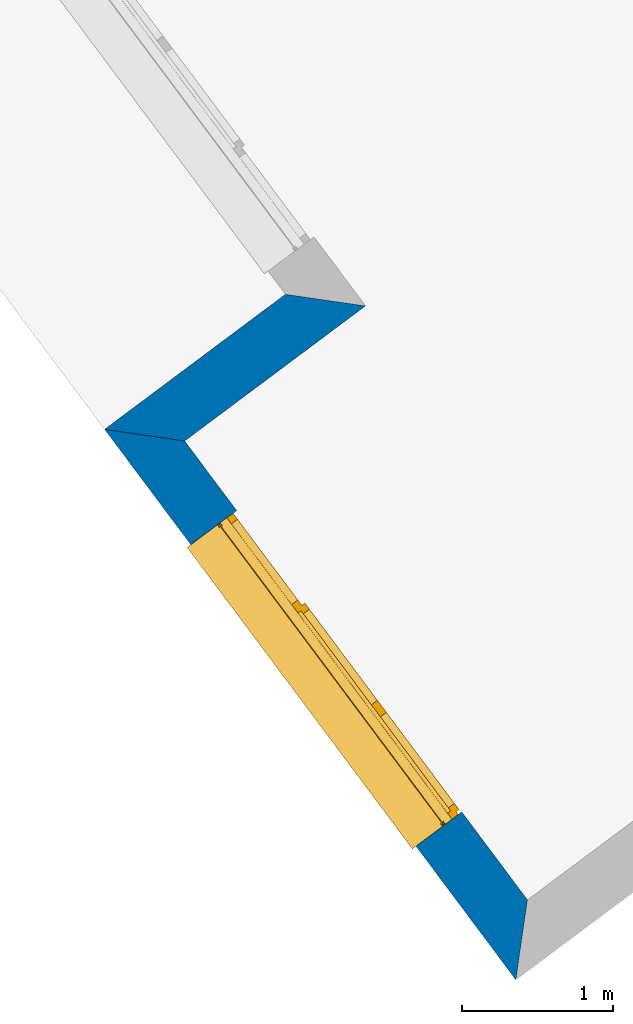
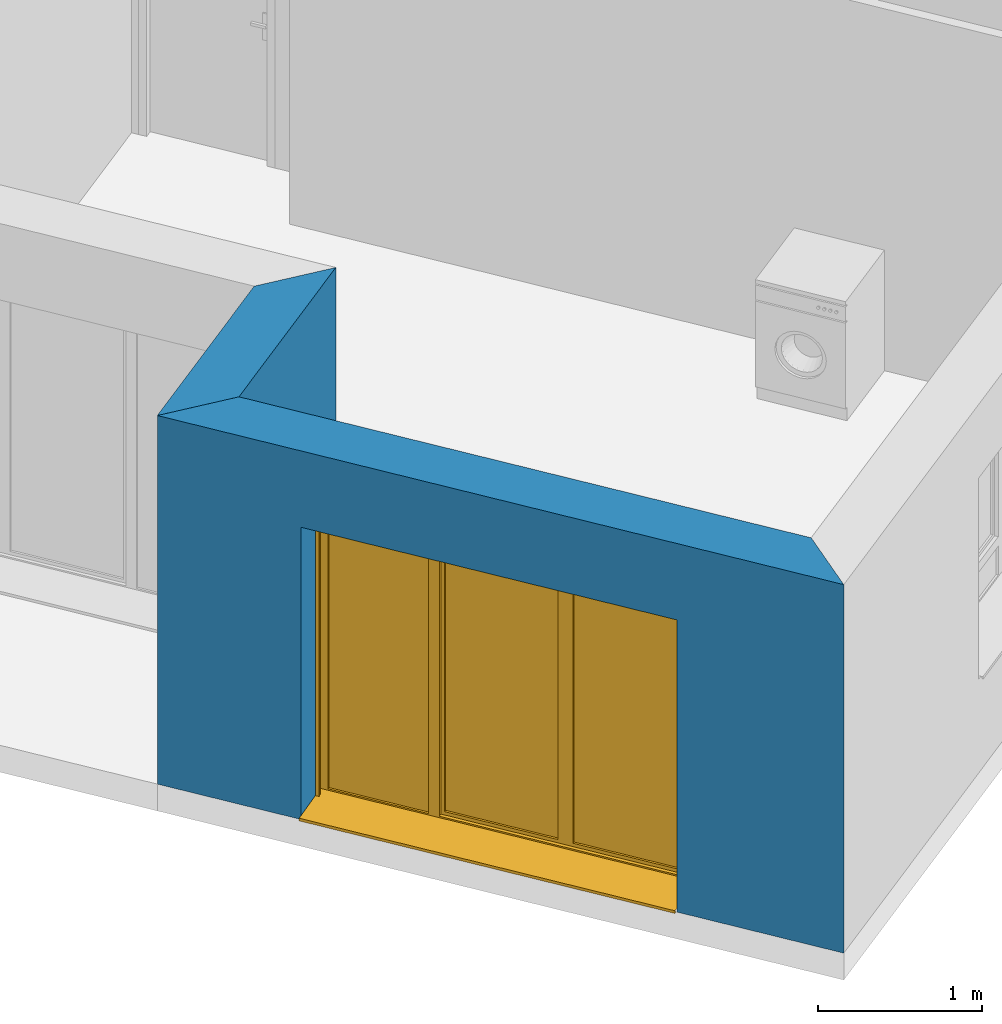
# One storey, part 4 of 195: 2 walls, 1 window, 1 opening.
"""IFC2X3 building model written with IfcOpenShell, lengths in metres."""

from ifc_helpers import new_model, entity, si_unit, converted_unit, derived_unit, money_unit, direction, frame, origin_with_axes, place, context, subcontext, project, spatial, polyline, outline, extrude, open_shell, faceted_brep, surface_model, source, transform, mapped, material, layer, layer_set, layer_usage, type_object, element, fill, save


model = new_model("IFC2X3")

# Units and contexts
model_context = context("Model", 3, precision=1e-05, world=origin_with_axes(), true_north=direction((0.0, 1.0)))
body_context = subcontext(model_context, "Body", "Model", "MODEL_VIEW")
ifc_project = project(units=[si_unit("LENGTHUNIT", "METRE"), si_unit("AREAUNIT", "SQUARE_METRE"), si_unit("VOLUMEUNIT", "CUBIC_METRE"), converted_unit("PLANEANGLEUNIT", "DEGREE", entity("IfcPlaneAngleMeasure", 0.0174532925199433), si_unit("PLANEANGLEUNIT", "RADIAN"), dimensions=[0, 0, 0, 0, 0, 0, 0]), money_unit("CHF"), converted_unit("TIMEUNIT", "Year", entity("IfcTimeMeasure", 31557600.0), si_unit("TIMEUNIT", "SECOND"), dimensions=[0, 0, 1, 0, 0, 0, 0]), si_unit("MASSUNIT", "GRAM", prefix="KILO"), si_unit("THERMODYNAMICTEMPERATUREUNIT", "DEGREE_CELSIUS"), si_unit("LUMINOUSINTENSITYUNIT", "LUMEN"), si_unit("ENERGYUNIT", "JOULE", prefix="MEGA"), derived_unit("THERMALCONDUCTANCEUNIT", [(si_unit("POWERUNIT", "WATT"), 1), (si_unit("LENGTHUNIT", "METRE"), -1), (si_unit("THERMODYNAMICTEMPERATUREUNIT", "KELVIN"), -1)]), derived_unit("SPECIFICHEATCAPACITYUNIT", [(si_unit("ENERGYUNIT", "JOULE"), 1), (si_unit("MASSUNIT", "GRAM", prefix="KILO"), -1), (si_unit("THERMODYNAMICTEMPERATUREUNIT", "KELVIN"), -1)]), derived_unit("MASSDENSITYUNIT", [(si_unit("MASSUNIT", "GRAM", prefix="KILO"), 1), (si_unit("VOLUMEUNIT", "CUBIC_METRE"), -1)])], contexts=[model_context])

# Site, building, storey
site_placement = place(None, origin_with_axes())
site = spatial("IfcSite", under=ifc_project, at=site_placement, Name="Site", CompositionType="ELEMENT")
building_placement = place(site_placement, origin_with_axes())
building = spatial("IfcBuilding", under=site, at=building_placement, Name="Bâtiment", CompositionType="ELEMENT")
storey_placement = place(building_placement, origin_with_axes())
storey = spatial("IfcBuildingStorey", under=building, at=storey_placement, Name="rdc", CompositionType="ELEMENT", Elevation=0.0)

# Wall
ifc_material_1 = material(Name="Parpaing 312445824")
ifc_layer_1 = layer(ifc_material_1, 0.22, ventilated="UNKNOWN")
ifc_material_2 = material(Name="Isolant styromousse 301821074")
ifc_layer_2 = layer(ifc_material_2, 0.16, ventilated="UNKNOWN")
ifc_layer_set = layer_set([ifc_layer_1, ifc_layer_2], Name="isol int 22+16 0836643197")
ifc_layer_usage_1 = layer_usage(ifc_layer_set, "AXIS2", "POSITIVE", 0.0)
wall_type = type_object("IfcWallType", Name="isol int 22+16 0836643197 380", PredefinedType="NOTDEFINED")
wall_1_placement = place(storey_placement, frame((9534.109149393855, -1084.476168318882, 57.7), z_axis=(0.0, 0.0, 1.0), x_axis=(-0.8011628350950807, -0.5984464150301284, 0.0)))
element("IfcWallStandardCase", 1, at=wall_1_placement, inside=storey, type_object=wall_type, material=ifc_layer_usage_1, Name="Mur-115", context=body_context, shape_type="SweptSolid", body=[
    extrude(outline(polyline([(0.0, 0.0), (1.500000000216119, 0.0), (1.12000000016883, 0.3799999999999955), (-0.3800000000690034, 0.3800000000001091), (0.0, 0.0)])), origin_with_axes(), (0.0, 0.0, 1.0), 2.75),
])

# Wall, opening, window
ifc_layer_usage_2 = layer_usage(ifc_layer_set, "AXIS2", "POSITIVE", 0.0)
wall_2_placement = place(storey_placement, frame((9532.907405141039, -1085.373837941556, 57.7), z_axis=(0.0, 0.0, 1.0), x_axis=(0.5984464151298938, -0.8011628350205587, 0.0)))
wall_2 = element("IfcWallStandardCase", 2, at=wall_2_placement, inside=storey, type_object=wall_type, material=ifc_layer_usage_2, Name="Mur-115", context=body_context, shape_type="SweptSolid", body=[
    extrude(outline(polyline([(0.0, 0.0), (4.566222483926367, 0.0), (4.186222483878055, 0.3799999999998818), (0.3800000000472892, 0.3799999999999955), (0.0, 0.0)])), origin_with_axes(), (0.0, 0.0, 1.0), 2.75),
])
opening_placement = place(wall_2_placement, frame((2.206747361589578, 0.0, 0.0), z_axis=(0.0, 0.0, 1.0), x_axis=(1.0, 0.0, 0.0)))
opening = element("IfcOpeningElement", 3, at=opening_placement, cuts=wall_2, Name="Fen-050", context=body_context, shape_type="Brep", body=[
    faceted_brep([(-1.25, 0.4800000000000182, 2.18), (1.25, 0.4800000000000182, 2.18), (1.25, 2.570289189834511, 2.18), (-1.25, 2.570289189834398, 2.18), (-1.25, 0.4800000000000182, 2.380000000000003), (1.25, 0.4800000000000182, 2.380000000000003), (1.25, 0.2999999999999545, 2.18), (1.25, 0.2999999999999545, 0.0), (1.25, 2.570289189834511, 0.0), (-1.25, 2.570289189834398, 0.0), (-1.25, 0.2999999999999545, 2.18), (-1.25, 0.2999999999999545, 0.0), (-1.25, 0.2200000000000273, 2.18), (-1.25, 0.2200000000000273, 2.380000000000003), (1.25, 0.2200000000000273, 2.380000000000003), (1.25, 0.2200000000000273, 2.18), (1.25, -2.190289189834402, 2.18), (1.25, -2.190289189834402, 0.0), (-1.250000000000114, -2.190289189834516, 0.0), (-1.250000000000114, -2.190289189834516, 2.18)], [[[0, 1, 2, 3]], [[1, 0, 4, 5]], [[1, 6, 7, 8, 2]], [[2, 8, 9, 3]], [[10, 0, 3, 9, 11]], [[0, 10, 12, 13, 4]], [[4, 13, 14, 5]], [[6, 1, 5, 14, 15]], [[6, 15, 16, 17, 7]], [[7, 11, 9, 8]], [[12, 10, 11, 18, 19]], [[12, 15, 14, 13]], [[15, 12, 19, 16]], [[19, 18, 17, 16]], [[11, 7, 17, 18]]]),
])
window_style = type_object("IfcWindowStyle", Name="Fenêtre variable 27", ConstructionType="NOTDEFINED", OperationType="TRIPLE_PANEL_VERTICAL", ParameterTakesPrecedence=False, Sizeable=False)
shared_shape = source(origin_with_axes(), body_context, "Body", "SurfaceModel", [
    surface_model("IfcShellBasedSurfaceModel", [(1.25, -0.05100000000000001, 0.05), (-1.25, -0.05100000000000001, 0.05000000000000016), (-1.25, -0.05100000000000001, 0.04000000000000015), (1.25, -0.05100000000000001, 0.04), (-1.25, -0.3799999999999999, 0.02900000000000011), (1.25, -0.3799999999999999, 0.02899999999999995), (-1.25, -0.3799999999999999, 0.009000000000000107), (1.25, -0.3799999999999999, 0.008999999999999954), (-1.25, -0.3699999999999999, 0.01900000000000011), (1.25, -0.3699999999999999, 0.01899999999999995)], [open_shell([[[0, 1, 2, 3]], [[3, 2, 4, 5]], [[5, 4, 6, 7]], [[7, 6, 8, 9]]])]),
    faceted_brep([(1.25, -0.1300000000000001, 2.38), (1.25, 0.1299999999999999, 2.38), (1.247, 0.1299999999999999, 2.38), (1.247, -0.1300000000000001, 2.38), (1.25, -0.1300000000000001, 2.18), (1.25, 0.1299999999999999, 2.18), (1.247, 0.1299999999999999, 2.18), (1.247, -0.1300000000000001, 2.18)], [[[0, 1, 2, 3]], [[0, 4, 5, 1]], [[1, 5, 6, 2]], [[3, 2, 6, 7]], [[4, 0, 3, 7]], [[5, 4, 7, 6]]]),
    faceted_brep([(-1.247, -0.1299999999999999, 2.38), (-1.247, 0.1300000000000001, 2.38), (-1.25, 0.1300000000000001, 2.38), (-1.25, -0.1299999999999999, 2.38), (-1.247, -0.1299999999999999, 2.18), (-1.247, 0.1300000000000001, 2.18), (-1.25, 0.1300000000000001, 2.18), (-1.25, -0.1299999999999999, 2.18)], [[[0, 1, 2, 3]], [[0, 4, 5, 1]], [[1, 5, 6, 2]], [[3, 2, 6, 7]], [[4, 0, 3, 7]], [[5, 4, 7, 6]]]),
    faceted_brep([(1.247, -0.1300000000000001, 2.18), (1.247, -0.1300000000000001, 2.38), (-1.247, -0.1299999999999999, 2.38), (-1.247, -0.1299999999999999, 2.18), (1.247, -0.1270000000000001, 2.18), (1.247, -0.1270000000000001, 2.377), (1.247, 0.1269999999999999, 2.377), (1.247, 0.1269999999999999, 2.183), (1.247, -0.1080000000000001, 2.183), (1.247, -0.1080000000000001, 2.18), (1.247, 0.1299999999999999, 2.18), (1.247, 0.1299999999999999, 2.38), (-1.247, 0.1300000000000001, 2.38), (-1.247, 0.1300000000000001, 2.18), (-1.247, -0.1079999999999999, 2.18), (-1.247, -0.1079999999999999, 2.183), (-1.247, 0.1270000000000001, 2.183), (-1.247, 0.1270000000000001, 2.377), (-1.247, -0.1269999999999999, 2.377), (-1.247, -0.1269999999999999, 2.18)], [[[0, 1, 2, 3]], [[0, 4, 5, 6, 7, 8, 9, 10, 11, 1]], [[1, 11, 12, 2]], [[3, 2, 12, 13, 14, 15, 16, 17, 18, 19]], [[4, 0, 3, 19]], [[5, 4, 19, 18]], [[6, 5, 18, 17]], [[7, 6, 17, 16]], [[8, 7, 16, 15]], [[9, 8, 15, 14]], [[10, 9, 14, 13]], [[11, 10, 13, 12]]]),
    faceted_brep([(1.244, -0.08075423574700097, 2.265760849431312), (1.244, -0.07705479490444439, 2.251954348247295), (1.244, -0.07101408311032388, 2.239), (1.244, -0.06281564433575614, 2.227291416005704), (1.244, -0.05270858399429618, 2.217184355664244), (1.244, -0.04099999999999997, 2.208985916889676), (1.244, -0.02804565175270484, 2.202945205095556), (1.244, -0.01423915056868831, 2.199245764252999), (1.244, 0.0, 2.198), (1.244, 0.01423915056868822, 2.199245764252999), (1.244, 0.02804565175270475, 2.202945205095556), (1.244, 0.0409999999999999, 2.208985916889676), (1.244, 0.05270858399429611, 2.217184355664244), (1.244, 0.06281564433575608, 2.227291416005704), (1.244, 0.07101408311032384, 2.239), (1.244, 0.07705479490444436, 2.251954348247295), (1.244, 0.08075423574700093, 2.265760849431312), (1.244, 0.08199999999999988, 2.28), (1.244, 0.08075423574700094, 2.294239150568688), (1.244, 0.07705479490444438, 2.308045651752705), (1.244, 0.07101408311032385, 2.321), (1.244, 0.0628156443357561, 2.332708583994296), (1.244, 0.05270858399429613, 2.342815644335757), (1.244, 0.04099999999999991, 2.351014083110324), (1.244, 0.02804565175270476, 2.357054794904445), (1.244, 0.01423915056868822, 2.360754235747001), (1.244, 0.0, 2.362), (1.244, -0.01423915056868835, 2.360754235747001), (1.244, -0.0280456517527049, 2.357054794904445), (1.244, -0.04100000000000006, 2.351014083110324), (1.244, -0.05270858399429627, 2.342815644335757), (1.244, -0.06281564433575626, 2.332708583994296), (1.244, -0.07101408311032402, 2.321), (1.244, -0.07705479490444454, 2.308045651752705), (1.244, -0.08075423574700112, 2.294239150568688), (1.244, -0.08200000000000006, 2.28), (-1.244, -0.08075423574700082, 2.265760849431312), (-1.244, -0.07705479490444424, 2.251954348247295), (-1.244, -0.07101408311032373, 2.239), (-1.244, -0.06281564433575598, 2.227291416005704), (-1.244, -0.05270858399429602, 2.217184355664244), (-1.244, -0.04099999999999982, 2.208985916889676), (-1.244, -0.02804565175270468, 2.202945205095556), (-1.244, -0.01423915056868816, 2.199245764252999), (-1.244, 0.0, 2.198), (-1.244, 0.01423915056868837, 2.199245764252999), (-1.244, 0.02804565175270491, 2.202945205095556), (-1.244, 0.04100000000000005, 2.208985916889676), (-1.244, 0.05270858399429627, 2.217184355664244), (-1.244, 0.06281564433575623, 2.227291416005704), (-1.244, 0.07101408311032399, 2.239), (-1.244, 0.07705479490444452, 2.251954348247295), (-1.244, 0.08075423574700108, 2.265760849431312), (-1.244, 0.08200000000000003, 2.28), (-1.244, 0.0807542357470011, 2.294239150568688), (-1.244, 0.07705479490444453, 2.308045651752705), (-1.244, 0.071014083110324, 2.321), (-1.244, 0.06281564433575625, 2.332708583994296), (-1.244, 0.05270858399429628, 2.342815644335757), (-1.244, 0.04100000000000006, 2.351014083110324), (-1.244, 0.02804565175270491, 2.357054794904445), (-1.244, 0.01423915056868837, 2.360754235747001), (-1.244, 0.0, 2.362), (-1.244, -0.0142391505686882, 2.360754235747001), (-1.244, -0.02804565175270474, 2.357054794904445), (-1.244, -0.0409999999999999, 2.351014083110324), (-1.244, -0.05270858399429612, 2.342815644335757), (-1.244, -0.06281564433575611, 2.332708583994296), (-1.244, -0.07101408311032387, 2.321), (-1.244, -0.07705479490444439, 2.308045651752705), (-1.244, -0.08075423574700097, 2.294239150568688), (-1.244, -0.0819999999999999, 2.28)], [[[0, 1, 2, 3, 4, 5, 6, 7, 8, 9, 10, 11, 12, 13, 14, 15, 16, 17, 18, 19, 20, 21, 22, 23, 24, 25, 26, 27, 28, 29, 30, 31, 32, 33, 34, 35]], [[1, 0, 36, 37]], [[2, 1, 37, 38]], [[3, 2, 38, 39]], [[4, 3, 39, 40]], [[5, 4, 40, 41]], [[6, 5, 41, 42]], [[7, 6, 42, 43]], [[8, 7, 43, 44]], [[9, 8, 44, 45]], [[10, 9, 45, 46]], [[11, 10, 46, 47]], [[12, 11, 47, 48]], [[13, 12, 48, 49]], [[14, 13, 49, 50]], [[15, 14, 50, 51]], [[16, 15, 51, 52]], [[17, 16, 52, 53]], [[18, 17, 53, 54]], [[19, 18, 54, 55]], [[20, 19, 55, 56]], [[21, 20, 56, 57]], [[22, 21, 57, 58]], [[23, 22, 58, 59]], [[24, 23, 59, 60]], [[25, 24, 60, 61]], [[26, 25, 61, 62]], [[27, 26, 62, 63]], [[28, 27, 63, 64]], [[29, 28, 64, 65]], [[30, 29, 65, 66]], [[31, 30, 66, 67]], [[32, 31, 67, 68]], [[33, 32, 68, 69]], [[34, 33, 69, 70]], [[35, 34, 70, 71]], [[0, 35, 71, 36]], [[36, 71, 70, 69, 68, 67, 66, 65, 64, 63, 62, 61, 60, 59, 58, 57, 56, 55, 54, 53, 52, 51, 50, 49, 48, 47, 46, 45, 44, 43, 42, 41, 40, 39, 38, 37]]]),
    faceted_brep([(-1.25, -0.105, 0.03), (-1.25, -0.13, 0.03), (-1.25, -0.1299999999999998, 2.18), (-1.25, -0.1049999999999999, 2.18), (-1.225, -0.105, 0.03), (-1.225, -0.108, 0.03), (-1.247, -0.108, 0.03), (-1.247, -0.127, 0.03), (-1.225, -0.127, 0.03), (-1.225, -0.13, 0.03), (-1.225, -0.1299999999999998, 2.18), (-1.225, -0.1269999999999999, 2.18), (-1.247, -0.1269999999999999, 2.18), (-1.247, -0.1079999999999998, 2.18), (-1.225, -0.1079999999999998, 2.18), (-1.225, -0.1049999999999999, 2.18)], [[[0, 1, 2, 3]], [[0, 4, 5, 6, 7, 8, 9, 1]], [[1, 9, 10, 2]], [[3, 2, 10, 11, 12, 13, 14, 15]], [[4, 0, 3, 15]], [[5, 4, 15, 14]], [[6, 5, 14, 13]], [[7, 6, 13, 12]], [[8, 7, 12, 11]], [[9, 8, 11, 10]]]),
    faceted_brep([(1.25, -0.105, 0.03), (1.25, -0.1049999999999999, 2.18), (1.25, -0.1299999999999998, 2.18), (1.25, -0.13, 0.03), (1.225, -0.105, 0.03), (1.225, -0.1049999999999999, 2.18), (1.225, -0.1079999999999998, 2.18), (1.247, -0.1079999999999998, 2.18), (1.247, -0.1269999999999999, 2.18), (1.225, -0.1269999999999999, 2.18), (1.225, -0.1299999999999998, 2.18), (1.225, -0.13, 0.03), (1.225, -0.127, 0.03), (1.247, -0.127, 0.03), (1.247, -0.108, 0.03), (1.225, -0.108, 0.03)], [[[0, 1, 2, 3]], [[4, 5, 1, 0]], [[1, 5, 6, 7, 8, 9, 10, 2]], [[3, 2, 10, 11]], [[0, 3, 11, 12, 13, 14, 15, 4]], [[15, 6, 5, 4]], [[14, 7, 6, 15]], [[13, 8, 7, 14]], [[12, 9, 8, 13]], [[11, 10, 9, 12]]]),
    surface_model("IfcShellBasedSurfaceModel", [(1.247, -0.115, 2.28), (-1.247, -0.1149999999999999, 2.28), (-1.247, -0.1199999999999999, 2.28), (1.247, -0.1200000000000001, 2.28), (1.247, -0.115, 2.28), (1.247, -0.1200000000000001, 2.28), (-1.247, -0.1199999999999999, 2.28), (-1.247, -0.1149999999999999, 2.28)], [open_shell([[[0, 1, 2, 3]], [[4, 5, 6, 7]]])]),
    faceted_brep([(1.247, -0.115, 2.28), (1.247, -0.1166666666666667, 2.263333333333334), (-1.247, -0.1166666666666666, 2.263333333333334), (-1.247, -0.1149999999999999, 2.28), (1.247, -0.1200000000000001, 2.28), (1.247, -0.1216666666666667, 2.263333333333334), (1.247, -0.1216666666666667, 2.246666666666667), (1.247, -0.1200000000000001, 2.23), (1.247, -0.115, 2.23), (1.247, -0.1166666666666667, 2.246666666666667), (-1.247, -0.1166666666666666, 2.246666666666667), (-1.247, -0.1149999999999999, 2.23), (-1.247, -0.1199999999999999, 2.23), (-1.247, -0.1216666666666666, 2.246666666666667), (-1.247, -0.1216666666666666, 2.263333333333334), (-1.247, -0.1199999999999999, 2.28)], [[[0, 1, 2, 3]], [[0, 4, 5, 6, 7, 8, 9, 1]], [[1, 9, 10, 2]], [[3, 2, 10, 11, 12, 13, 14, 15]], [[4, 0, 3, 15]], [[5, 4, 15, 14]], [[6, 5, 14, 13]], [[7, 6, 13, 12]], [[8, 7, 12, 11]], [[9, 8, 11, 10]]]),
    faceted_brep([(1.247, -0.115, 2.23), (1.247, -0.1166666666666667, 2.213333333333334), (-1.247, -0.1166666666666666, 2.213333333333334), (-1.247, -0.1149999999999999, 2.23), (1.247, -0.1200000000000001, 2.23), (1.247, -0.1216666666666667, 2.213333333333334), (1.247, -0.1216666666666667, 2.196666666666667), (1.247, -0.1200000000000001, 2.180000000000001), (1.247, -0.115, 2.180000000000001), (1.247, -0.1166666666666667, 2.196666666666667), (-1.247, -0.1166666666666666, 2.196666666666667), (-1.247, -0.1149999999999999, 2.180000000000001), (-1.247, -0.1199999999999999, 2.180000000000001), (-1.247, -0.1216666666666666, 2.196666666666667), (-1.247, -0.1216666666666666, 2.213333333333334), (-1.247, -0.1199999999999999, 2.23)], [[[0, 1, 2, 3]], [[0, 4, 5, 6, 7, 8, 9, 1]], [[1, 9, 10, 2]], [[3, 2, 10, 11, 12, 13, 14, 15]], [[4, 0, 3, 15]], [[5, 4, 15, 14]], [[6, 5, 14, 13]], [[7, 6, 13, 12]], [[8, 7, 12, 11]], [[9, 8, 11, 10]]]),
    faceted_brep([(1.225, 0.0, 2.13), (1.225, -0.02500000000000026, 2.13), (1.2, -0.02500000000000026, 2.13), (1.2, -0.05000000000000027, 2.13), (1.25, -0.05000000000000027, 2.13), (1.25, 0.0, 2.13), (1.225, 0.0, 0.05000000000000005), (1.225, -0.02500000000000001, 0.05000000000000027), (1.2, -0.02500000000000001, 0.05000000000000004), (1.2, -0.05000000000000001, 0.05000000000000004), (1.25, -0.05000000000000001, 0.05000000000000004), (1.25, 0.0, 0.05000000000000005)], [[[0, 1, 2, 3, 4, 5]], [[1, 0, 6, 7]], [[8, 2, 1, 7]], [[2, 8, 9, 3]], [[4, 3, 9, 10]], [[5, 4, 10, 11]], [[6, 0, 5, 11]], [[7, 6, 11, 10, 9, 8]]]),
    faceted_brep([(-0.4600000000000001, -0.02500000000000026, 2.13), (-0.4850000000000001, -0.02500000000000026, 2.13), (-0.4850000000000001, 0.0, 2.13), (-0.5300000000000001, 0.0, 2.13), (-0.5300000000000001, -0.05000000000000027, 2.13), (-0.4600000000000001, -0.05000000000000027, 2.13), (-0.4600000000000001, -0.02500000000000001, 0.05000000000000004), (-0.4850000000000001, -0.02500000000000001, 0.05000000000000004), (-0.4850000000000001, 0.0, 0.05000000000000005), (-0.5300000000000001, 0.0, 0.05000000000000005), (-0.5300000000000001, -0.05000000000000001, 0.05000000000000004), (-0.4600000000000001, -0.05000000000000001, 0.05000000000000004)], [[[0, 1, 2, 3, 4, 5]], [[1, 0, 6, 7]], [[8, 2, 1, 7]], [[2, 8, 9, 3]], [[9, 10, 4, 3]], [[10, 11, 5, 4]], [[6, 0, 5, 11]], [[7, 6, 11, 10, 9, 8]]]),
    faceted_brep([(-0.4600000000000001, -0.02500000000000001, 0.05000000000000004), (-0.4850000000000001, -0.02500000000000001, 0.05000000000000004), (-0.4850000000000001, 0.0, 0.05000000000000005), (-0.5300000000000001, 0.0, 0.05000000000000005), (-0.5300000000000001, -0.05000000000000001, 0.05000000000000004), (-0.4600000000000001, -0.05000000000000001, 0.05000000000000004), (1.2, -0.02500000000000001, 0.05000000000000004), (1.225, -0.02500000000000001, 0.05000000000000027), (1.225, -0.025, 0.02499999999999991), (-0.4850000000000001, -0.025, 0.02499999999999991), (-0.4850000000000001, 0.0, 0.02499999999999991), (1.225, 0.0, 0.02499999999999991), (1.225, 0.0, 0.05000000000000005), (1.25, 0.0, 0.05000000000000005), (1.25, 0.0, 0.0), (-1.25, 0.0, 0.0), (-1.25, 0.0, 0.05000000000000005), (-1.2, 0.0, 0.05000000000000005), (-1.2, -0.05000000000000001, 0.05000000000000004), (1.25, -0.05000000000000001, 0.05000000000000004), (1.2, -0.05000000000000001, 0.05000000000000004), (-1.25, -0.05000000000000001, 0.05000000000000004), (-1.25, -0.05, 0.0), (1.25, -0.05, 0.0)], [[[0, 1, 2, 3, 4, 5]], [[1, 0, 6, 7, 8, 9]], [[10, 2, 1, 9]], [[11, 12, 13, 14, 15, 16, 17, 3, 2, 10]], [[17, 18, 4, 3]], [[19, 20, 5, 4, 18, 21, 22, 23]], [[6, 0, 5, 20]], [[7, 6, 20, 19, 13, 12]], [[7, 12, 11, 8]], [[11, 10, 9, 8]], [[13, 19, 23, 14]], [[14, 23, 22, 15]], [[15, 22, 21, 16]], [[16, 21, 18, 17]]]),
    faceted_brep([(1.225, 0.0, 2.13), (1.225, 0.0, 2.155), (-0.4850000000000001, 0.0, 2.155), (-0.4850000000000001, 0.0, 2.13), (-0.5300000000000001, 0.0, 2.13), (-1.2, 0.0, 2.13), (-1.25, 0.0, 2.13), (-1.25, 0.0, 2.18), (1.25, 0.0, 2.18), (1.25, 0.0, 2.13), (1.225, -0.02500000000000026, 2.13), (1.225, -0.02500000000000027, 2.155), (-0.4850000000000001, -0.02500000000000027, 2.155), (-0.4850000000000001, -0.02500000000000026, 2.13), (-0.4600000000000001, -0.02500000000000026, 2.13), (-0.4600000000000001, -0.05000000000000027, 2.13), (-0.5300000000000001, -0.05000000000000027, 2.13), (-1.2, -0.05000000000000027, 2.13), (-1.25, -0.05000000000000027, 2.13), (-1.25, -0.05000000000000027, 2.18), (1.25, -0.05000000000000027, 2.18), (1.25, -0.05000000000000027, 2.13), (1.2, -0.05000000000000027, 2.13), (1.2, -0.02500000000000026, 2.13)], [[[0, 1, 2, 3, 4, 5, 6, 7, 8, 9]], [[1, 0, 10, 11]], [[2, 1, 11, 12]], [[3, 2, 12, 13]], [[13, 14, 15, 16, 4, 3]], [[4, 16, 17, 5]], [[5, 17, 18, 6]], [[6, 18, 19, 7]], [[7, 19, 20, 8]], [[8, 20, 21, 9]], [[10, 0, 9, 21, 22, 23]], [[14, 13, 12, 11, 10, 23]], [[14, 23, 22, 15]], [[16, 15, 22, 21, 20, 19, 18, 17]]]),
    faceted_brep([(-1.2, -0.05000000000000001, 0.05), (-1.25, -0.05000000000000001, 0.05), (-1.25, 0.0, 0.05000000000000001), (-1.2, 0.0, 0.05000000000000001), (-1.2, -0.05000000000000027, 2.13), (-1.25, -0.05000000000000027, 2.13), (-1.25, 0.0, 2.13), (-1.2, 0.0, 2.13)], [[[0, 1, 2, 3]], [[0, 4, 5, 1]], [[1, 5, 6, 2]], [[3, 2, 6, 7]], [[4, 0, 3, 7]], [[5, 4, 7, 6]]]),
    faceted_brep([(0.3199999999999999, -0.02500000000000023, 2.105), (0.3699999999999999, -0.02500000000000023, 2.105), (0.3699999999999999, 0.02499999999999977, 2.105), (0.3199999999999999, 0.02499999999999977, 2.105), (0.3199999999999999, -0.02499999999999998, 0.07500000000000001), (0.3699999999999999, -0.02499999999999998, 0.07500000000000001), (0.3699999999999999, 0.02500000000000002, 0.07500000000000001), (0.3199999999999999, 0.02500000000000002, 0.07500000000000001)], [[[0, 1, 2, 3]], [[0, 4, 5, 1]], [[1, 5, 6, 2]], [[3, 2, 6, 7]], [[4, 0, 3, 7]], [[5, 4, 7, 6]]]),
    faceted_brep([(-0.4350000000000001, -0.02500000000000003, 0.07500000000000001), (-0.4850000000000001, -0.02500000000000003, 0.07500000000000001), (-0.4850000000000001, 0.02499999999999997, 0.07500000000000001), (-0.4350000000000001, 0.02499999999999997, 0.07500000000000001), (-0.4350000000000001, -0.02500000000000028, 2.105), (-0.4850000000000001, -0.02500000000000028, 2.105), (-0.4850000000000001, 0.02499999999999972, 2.105), (-0.4350000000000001, 0.02499999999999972, 2.105)], [[[0, 1, 2, 3]], [[0, 4, 5, 1]], [[1, 5, 6, 2]], [[3, 2, 6, 7]], [[4, 0, 3, 7]], [[5, 4, 7, 6]]]),
    faceted_brep([(-0.4850000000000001, -0.02500000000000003, 0.025), (-0.4850000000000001, -0.02500000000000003, 0.07500000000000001), (-0.4850000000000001, 0.02499999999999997, 0.07500000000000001), (-0.4850000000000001, 0.02499999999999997, 0.02500000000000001), (0.3699999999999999, -0.02499999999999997, 0.025), (0.3699999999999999, -0.02499999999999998, 0.07500000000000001), (0.3199999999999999, -0.02499999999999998, 0.07500000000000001), (-0.4350000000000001, -0.02500000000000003, 0.07500000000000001), (-0.4350000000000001, 0.02499999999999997, 0.07500000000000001), (0.3199999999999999, 0.02500000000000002, 0.07500000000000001), (0.3699999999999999, 0.02500000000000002, 0.07500000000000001), (0.3699999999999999, 0.02500000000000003, 0.02500000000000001)], [[[0, 1, 2, 3]], [[0, 4, 5, 6, 7, 1]], [[1, 7, 8, 2]], [[3, 2, 8, 9, 10, 11]], [[4, 0, 3, 11]], [[5, 4, 11, 10]], [[6, 5, 10, 9]], [[7, 6, 9, 8]]]),
    faceted_brep([(0.3699999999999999, -0.02500000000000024, 2.155), (0.3699999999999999, -0.02500000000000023, 2.105), (0.3699999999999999, 0.02499999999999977, 2.105), (0.3699999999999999, 0.02499999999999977, 2.155), (-0.4850000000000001, -0.02500000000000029, 2.155), (-0.4850000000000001, -0.02500000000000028, 2.105), (-0.4350000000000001, -0.02500000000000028, 2.105), (0.3199999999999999, -0.02500000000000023, 2.105), (0.3199999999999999, 0.02499999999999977, 2.105), (-0.4350000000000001, 0.02499999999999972, 2.105), (-0.4850000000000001, 0.02499999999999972, 2.105), (-0.4850000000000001, 0.02499999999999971, 2.155)], [[[0, 1, 2, 3]], [[0, 4, 5, 6, 7, 1]], [[1, 7, 8, 2]], [[3, 2, 8, 9, 10, 11]], [[4, 0, 3, 11]], [[5, 4, 11, 10]], [[6, 5, 10, 9]], [[7, 6, 9, 8]]]),
    surface_model("IfcShellBasedSurfaceModel", [(0.3199999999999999, -0.01000000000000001, 0.07500000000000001), (0.3199999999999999, -0.01000000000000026, 2.105), (-0.4350000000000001, -0.01000000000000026, 2.105), (-0.4350000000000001, -0.01000000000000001, 0.07500000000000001)], [open_shell([[[0, 1, 2, 3]]])]),
    surface_model("IfcShellBasedSurfaceModel", [(0.3199999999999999, 0.009999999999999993, 0.07500000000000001), (-0.4350000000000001, 0.009999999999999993, 0.07500000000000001), (-0.4350000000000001, 0.009999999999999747, 2.105), (0.3199999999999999, 0.009999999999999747, 2.105)], [open_shell([[[0, 1, 2, 3]]])]),
    faceted_brep([(1.175, -0.02500000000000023, 2.105), (1.225, -0.02500000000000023, 2.105), (1.225, 0.02499999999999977, 2.105), (1.175, 0.02499999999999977, 2.105), (1.175, -0.02499999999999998, 0.07500000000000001), (1.225, -0.02499999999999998, 0.07500000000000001), (1.225, 0.02500000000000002, 0.07500000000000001), (1.175, 0.02500000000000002, 0.07500000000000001)], [[[0, 1, 2, 3]], [[0, 4, 5, 1]], [[1, 5, 6, 2]], [[3, 2, 6, 7]], [[4, 0, 3, 7]], [[5, 4, 7, 6]]]),
    faceted_brep([(0.4199999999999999, -0.02500000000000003, 0.07500000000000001), (0.3699999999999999, -0.02500000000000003, 0.07500000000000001), (0.3699999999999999, 0.02499999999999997, 0.07500000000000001), (0.4199999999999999, 0.02499999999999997, 0.07500000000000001), (0.4199999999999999, -0.02500000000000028, 2.105), (0.3699999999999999, -0.02500000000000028, 2.105), (0.3699999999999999, 0.02499999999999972, 2.105), (0.4199999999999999, 0.02499999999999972, 2.105)], [[[0, 1, 2, 3]], [[0, 4, 5, 1]], [[1, 5, 6, 2]], [[3, 2, 6, 7]], [[4, 0, 3, 7]], [[5, 4, 7, 6]]]),
    faceted_brep([(0.3699999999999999, -0.02500000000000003, 0.025), (0.3699999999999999, -0.02500000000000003, 0.07500000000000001), (0.3699999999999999, 0.02499999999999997, 0.07500000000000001), (0.3699999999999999, 0.02499999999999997, 0.02500000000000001), (1.225, -0.02499999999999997, 0.025), (1.225, -0.02499999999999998, 0.07500000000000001), (1.175, -0.02499999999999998, 0.07500000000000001), (0.4199999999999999, -0.02500000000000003, 0.07500000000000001), (0.4199999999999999, 0.02499999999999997, 0.07500000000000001), (1.175, 0.02500000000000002, 0.07500000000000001), (1.225, 0.02500000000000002, 0.07500000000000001), (1.225, 0.02500000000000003, 0.02500000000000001)], [[[0, 1, 2, 3]], [[0, 4, 5, 6, 7, 1]], [[1, 7, 8, 2]], [[3, 2, 8, 9, 10, 11]], [[4, 0, 3, 11]], [[5, 4, 11, 10]], [[6, 5, 10, 9]], [[7, 6, 9, 8]]]),
    faceted_brep([(1.225, -0.02500000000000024, 2.155), (1.225, -0.02500000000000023, 2.105), (1.225, 0.02499999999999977, 2.105), (1.225, 0.02499999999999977, 2.155), (0.3699999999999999, -0.02500000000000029, 2.155), (0.3699999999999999, -0.02500000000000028, 2.105), (0.4199999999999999, -0.02500000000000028, 2.105), (1.175, -0.02500000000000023, 2.105), (1.175, 0.02499999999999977, 2.105), (0.4199999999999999, 0.02499999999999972, 2.105), (0.3699999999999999, 0.02499999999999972, 2.105), (0.3699999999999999, 0.02499999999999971, 2.155)], [[[0, 1, 2, 3]], [[0, 4, 5, 6, 7, 1]], [[1, 7, 8, 2]], [[3, 2, 8, 9, 10, 11]], [[4, 0, 3, 11]], [[5, 4, 11, 10]], [[6, 5, 10, 9]], [[7, 6, 9, 8]]]),
    surface_model("IfcShellBasedSurfaceModel", [(1.175, -0.01000000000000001, 0.07500000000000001), (1.175, -0.01000000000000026, 2.105), (0.4199999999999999, -0.01000000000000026, 2.105), (0.4199999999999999, -0.01000000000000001, 0.07500000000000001)], [open_shell([[[0, 1, 2, 3]]])]),
    surface_model("IfcShellBasedSurfaceModel", [(1.175, 0.009999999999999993, 0.07500000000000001), (0.4199999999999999, 0.009999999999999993, 0.07500000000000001), (0.4199999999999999, 0.009999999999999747, 2.105), (1.175, 0.009999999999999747, 2.105)], [open_shell([[[0, 1, 2, 3]]])]),
    surface_model("IfcShellBasedSurfaceModel", [(-0.5300000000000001, -0.035, 0.05), (-0.5300000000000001, -0.03500000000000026, 2.13), (-1.2, -0.03500000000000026, 2.13), (-1.2, -0.035, 0.05)], [open_shell([[[0, 1, 2, 3]]])]),
    surface_model("IfcShellBasedSurfaceModel", [(-0.5300000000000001, -0.015, 0.05), (-1.2, -0.015, 0.05), (-1.2, -0.01500000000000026, 2.13), (-0.5300000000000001, -0.01500000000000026, 2.13)], [open_shell([[[0, 1, 2, 3]]])]),
])
window_placement = place(opening_placement, frame((-1.249999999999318, 0.0, 0.0), z_axis=(0.0, 0.0, 1.0), x_axis=(1.0, 0.0, 0.0)))
window = element("IfcWindow", 4, at=window_placement, inside=storey, type_object=window_style, Name="Fen-050", OverallHeight=2.18, OverallWidth=2.5, context=body_context, shape_type="MappedRepresentation", body=[
    mapped(shared_shape, transform((1.25, 0.3500000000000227, 0.0))),
])
fill(opening, window)

save(model, "model.ifc")
